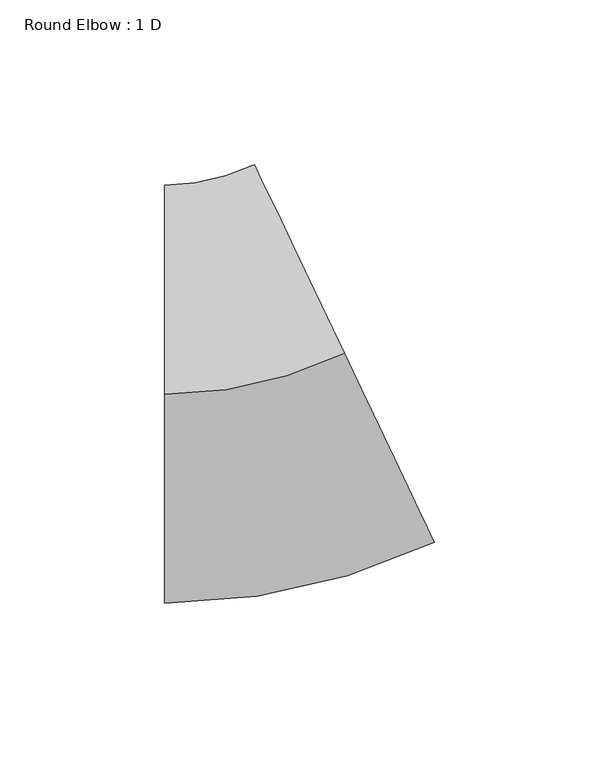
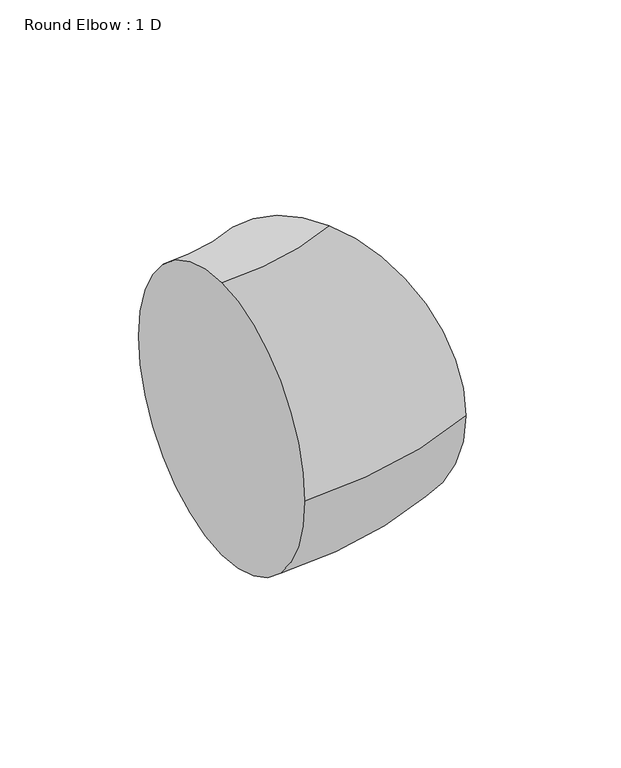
"""IFC4 building model written with IfcOpenShell, lengths in millimetres: duct fitting geometry, Round Elbow : 1 D."""

import ifcopenshell
import ifcopenshell.guid

model = None  # the IFC model being written
_history = None  # IfcOwnerHistory: only IFC2X3 demands one
_inside = {}  # id of a spatial element -> (the spatial element, [elements in it])
_under = {}  # id of a project, library or spatial element -> (it, [spatial elements below it])
_declared = {}  # id of a project -> (the project, [libraries it declares])
_typed = {}  # id of a type object -> (the type object, [elements of that type])
_made_of = {}  # id of a material, layer set ... -> (it, [elements and type objects made of it])


def new_model(schema):
    """Start an empty IFC model of exactly this schema.

    Asked for "IFC4X3", IfcOpenShell would pick the latest addendum, in which some entities
    have other attributes; the version numbers below select the first issue.
    IFC2X3 requires an IfcOwnerHistory on every rooted entity: one is made here for all.
    """
    global model, _history
    if schema == "IFC4X3":
        model = ifcopenshell.file(schema_version=(4, 3, 0, 0))
    else:
        model = ifcopenshell.file(schema=schema)
    _inside.clear()
    _under.clear()
    _declared.clear()
    _typed.clear()
    _made_of.clear()
    _history = None
    if model.schema == "IFC2X3":
        org = make("IfcOrganization", Name="unknown")
        user = make(
            "IfcPersonAndOrganization",
            ThePerson=make("IfcPerson", FamilyName="unknown"),
            TheOrganization=org,
        )
        app = make(
            "IfcApplication",
            ApplicationDeveloper=org,
            Version="unknown",
            ApplicationFullName="unknown",
            ApplicationIdentifier="unknown",
        )
        _history = make(
            "IfcOwnerHistory",
            OwningUser=user,
            OwningApplication=app,
            ChangeAction="ADDED",
            CreationDate=0,
        )
    return model


def make(cls, **values):
    """One entity of the class cls with the attributes given. An attribute that is None is left unset."""
    return model.create_entity(
        cls, **{name: value for name, value in values.items() if value is not None}
    )


def rooted(cls, **values):
    """An entity with a GlobalId (a new one), such as an element, a storey or a relation."""
    return make(cls, GlobalId=ifcopenshell.guid.new(), OwnerHistory=_history, **values)


def si_unit(unit_type, name, prefix=None):
    """IfcSIUnit, for example si_unit("LENGTHUNIT", "METRE", prefix="MILLI")."""
    return make("IfcSIUnit", UnitType=unit_type, Prefix=prefix, Name=name)


def assignment(units):
    """IfcUnitAssignment: the units of a project."""
    return None if units is None else make("IfcUnitAssignment", Units=units)


def point(xyz):
    """IfcCartesianPoint."""
    return None if xyz is None else make("IfcCartesianPoint", Coordinates=xyz)


def direction(xyz):
    """IfcDirection."""
    return None if xyz is None else make("IfcDirection", DirectionRatios=xyz)


def frame(location, z_axis=None, x_axis=None):
    """IfcAxis2Placement3D, a coordinate frame: its origin and axes. An axis left out is left unset."""
    return make(
        "IfcAxis2Placement3D",
        Location=point(location),
        Axis=direction(z_axis),
        RefDirection=direction(x_axis),
    )


def origin():
    """The frame at (0, 0, 0) with its axes left unset."""
    return frame((0.0, 0.0, 0.0))


def place(relative_to, where):
    """IfcLocalPlacement: puts the frame where relative to a parent placement (None: the world)."""
    return make(
        "IfcLocalPlacement", PlacementRelTo=relative_to, RelativePlacement=where
    )


def context(
    kind, dimensions, precision=None, world=None, true_north=None, identifier=None
):
    """IfcGeometricRepresentationContext, for example the 3D "Model" context."""
    return make(
        "IfcGeometricRepresentationContext",
        ContextIdentifier=identifier,
        ContextType=kind,
        CoordinateSpaceDimension=dimensions,
        Precision=precision,
        WorldCoordinateSystem=world,
        TrueNorth=true_north,
    )


def project(units=None, contexts=None):
    """IfcProject with its units and contexts."""
    return rooted(
        "IfcProject",
        Name="project",
        RepresentationContexts=contexts,
        UnitsInContext=assignment(units),
    )


def spatial(cls, under=None, at=None, **own):
    """A site, building, storey or space (cls), placed at a placement, below another one or the project."""
    s = rooted(cls, ObjectPlacement=at, **own)
    if under is not None:
        _under.setdefault(under.id(), (under, []))[1].append(s)
    return s


def circle_curve(where, radius):
    """IfcCircle in the frame where."""
    return make("IfcCircle", Position=where, Radius=radius)


def ellipse_curve(where, semi_axis1, semi_axis2):
    """IfcEllipse in the frame where."""
    return make(
        "IfcEllipse", Position=where, SemiAxis1=semi_axis1, SemiAxis2=semi_axis2
    )


def trimmed(basis, trim1, trim2, sense, master):
    """IfcTrimmedCurve: the piece of a basis curve between two trims."""
    return make(
        "IfcTrimmedCurve",
        BasisCurve=basis,
        Trim1=trim1,
        Trim2=trim2,
        SenseAgreement=sense,
        MasterRepresentation=master,
    )


def shape(context_of_items, identifier, shape_type, items):
    """IfcShapeRepresentation: the items that make up one representation, for example the "Body"."""
    return make(
        "IfcShapeRepresentation",
        ContextOfItems=context_of_items,
        RepresentationIdentifier=identifier,
        RepresentationType=shape_type,
        Items=items,
    )


def source(mapping_origin, context_of_items, identifier, shape_type, items):
    """IfcRepresentationMap: a shape defined once, which mapped items show again and again."""
    return make(
        "IfcRepresentationMap",
        MappingOrigin=mapping_origin,
        MappedRepresentation=shape(context_of_items, identifier, shape_type, items),
    )


def transform(
    local_origin,
    x_axis=None,
    y_axis=None,
    z_axis=None,
    scale=None,
    scale2=None,
    scale3=None,
    uniform=True,
):
    """IfcCartesianTransformationOperator3D, or its non-uniform kind. x_axis, y_axis, z_axis: its Axis1, 2, 3."""
    if uniform:
        return make(
            "IfcCartesianTransformationOperator3D",
            Axis1=direction(x_axis),
            Axis2=direction(y_axis),
            LocalOrigin=point(local_origin),
            Scale=scale,
            Axis3=direction(z_axis),
        )
    return make(
        "IfcCartesianTransformationOperator3DnonUniform",
        Axis1=direction(x_axis),
        Axis2=direction(y_axis),
        LocalOrigin=point(local_origin),
        Scale=scale,
        Axis3=direction(z_axis),
        Scale2=scale2,
        Scale3=scale3,
    )


def mapped(mapping_source, mapping_target):
    """IfcMappedItem: shows the shape of a source again, moved by a transform."""
    return make(
        "IfcMappedItem", MappingSource=mapping_source, MappingTarget=mapping_target
    )


def made_of(thing, what):
    """Note that an element or type object is made of a material, layer set ...; save() writes the relation."""
    if what is not None:
        _made_of.setdefault(what.id(), (what, []))[1].append(thing)
    return thing


def element(
    cls,
    number,
    at=None,
    inside=None,
    cuts=None,
    type_object=None,
    material=None,
    context=None,
    identifier="Body",
    shape_type=None,
    held_by="IfcProductDefinitionShape",
    body=None,
    shapes=None,
    **own,
):
    """One element of the class cls, such as IfcWall. Its Tag is "e" and its number.

    at: its placement. inside: the storey or other place that contains it. cuts: it is an
    opening in that element (IfcRelVoidsElement). A single representation is given by context,
    identifier, shape_type and body (its items); several are given by shapes. held_by: the class
    of the entity that holds the representations. save() writes the other relations.
    """
    e = rooted(cls, Tag="e%d" % number, ObjectPlacement=at, **own)
    if body is not None:
        shapes = [shape(context, identifier, shape_type, body)]
    if shapes is not None:
        e.Representation = make(held_by, Representations=shapes)
    if inside is not None:
        _inside.setdefault(inside.id(), (inside, []))[1].append(e)
    if cuts is not None:
        rooted(
            "IfcRelVoidsElement", RelatingBuildingElement=cuts, RelatedOpeningElement=e
        )
    if type_object is not None:
        _typed.setdefault(type_object.id(), (type_object, []))[1].append(e)
    return made_of(e, material)


def aggregate(whole, parts):
    """IfcRelAggregates: a whole, such as a stair, and the parts it consists of."""
    return rooted("IfcRelAggregates", RelatingObject=whole, RelatedObjects=parts)


def save(model, path):
    """Write the relations noted so far, then the file.

    IfcRelAggregates (storeys below a building ...), IfcRelContainedInSpatialStructure (elements
    in a storey), IfcRelDefinesByType, IfcRelAssociatesMaterial and IfcRelDeclares: one each for
    every whole, place, type object, material and project.
    """
    for whole, parts in _under.values():
        aggregate(whole, parts)
    for where, things in _inside.values():
        rooted(
            "IfcRelContainedInSpatialStructure",
            RelatedElements=things,
            RelatingStructure=where,
        )
    for kind, things in _typed.values():
        rooted("IfcRelDefinesByType", RelatedObjects=things, RelatingType=kind)
    for what, things in _made_of.values():
        rooted("IfcRelAssociatesMaterial", RelatedObjects=things, RelatingMaterial=what)
    for by, libraries in _declared.values():
        rooted("IfcRelDeclares", RelatingContext=by, RelatedDefinitions=libraries)
    model.write(path)


def plane_surface(at):
    """IfcPlane: the flat surface through the origin of the frame at, square to its z axis."""
    return make("IfcPlane", Position=at)


def revolved_surface(curve, axis_point, axis_direction):
    """IfcSurfaceOfRevolution: the curve turned about the line through axis_point along axis_direction."""
    return make(
        "IfcSurfaceOfRevolution",
        SweptCurve=make("IfcArbitraryOpenProfileDef", ProfileType="CURVE", Curve=curve),
        AxisPosition=make("IfcAxis1Placement", Location=point(axis_point), Axis=direction(axis_direction)),
    )


def advanced_brep(points, edges, surfaces, faces):
    """IfcAdvancedBrep: a solid bounded by faces that lie on surfaces and meet in shared edges.

    An edge is (start, end): straight between two places in points (the first is 0);
    or (start, end, curve); or (start, end, curve, False) where it runs against its curve.
    A face is (place in surfaces, loops), or (place, loops, False) where it looks against
    its surface's normal. A loop lists edges by number (the first is 1), with a minus sign
    where the edge is run from its end to its start. The first loop is the outer one.
    """
    corners = [point(p) for p in points]
    vertices = [make("IfcVertexPoint", VertexGeometry=c) for c in corners]
    made = []
    for start, end, *more in edges:
        made.append(
            make(
                "IfcEdgeCurve",
                EdgeStart=vertices[start],
                EdgeEnd=vertices[end],
                EdgeGeometry=more[0] if more else make("IfcPolyline", Points=[corners[start], corners[end]]),
                SameSense=more[1] if len(more) > 1 else True,
            )
        )
    hull = []
    for where, loops, *sense in faces:
        bounds = []
        for j, loop in enumerate(loops):
            ring = [make("IfcOrientedEdge", EdgeElement=made[abs(k) - 1], Orientation=k > 0) for k in loop]
            bounds.append(
                make(
                    "IfcFaceOuterBound" if j == 0 else "IfcFaceBound",
                    Bound=make("IfcEdgeLoop", EdgeList=ring),
                    Orientation=True,
                )
            )
        hull.append(make("IfcAdvancedFace", Bounds=bounds, FaceSurface=surfaces[where], SameSense=sense[0] if sense else True))
    return make("IfcAdvancedBrep", Outer=make("IfcClosedShell", CfsFaces=hull))


def round_elbow_1_d_d064e566(model_context):
    return source(origin(), model_context, "Body", "AdvancedBrep", [
        advanced_brep(
        [(-28.7211314, 0.0, 63.5), (-28.7211314, 63.5, 0.0), (-28.7211314, 0.0, -63.5), (-28.7211314, -63.5, 0.0), (25.9262401, 12.3585381, 63.5), (53.2499258, -44.9621929, 0.0), (25.9262401, 12.3585381, -63.5), (-1.3974457, 69.679269, 0.0)],
        [
            (0, 1, circle_curve(frame((-28.7211314, 0.0, 0.0), z_axis=(-1.0, 0.0, 0.0), x_axis=(0.0, 1.0, 0.0)), 63.5)),
            (1, 2, circle_curve(frame((-28.7211314, 0.0, 0.0), z_axis=(-1.0, 0.0, 0.0), x_axis=(0.0, 1.0, 0.0)), 63.5)),
            (2, 3, circle_curve(frame((-28.7211314, 0.0, 0.0), z_axis=(-1.0, 0.0, 0.0), x_axis=(0.0, 1.0, 0.0)), 63.5)),
            (3, 0, circle_curve(frame((-28.7211314, 0.0, 0.0), z_axis=(-1.0, 0.0, 0.0), x_axis=(0.0, 1.0, 0.0)), 63.5)),
            (4, 5, circle_curve(frame((25.9262401, 12.3585381, 0.0), z_axis=(0.9026886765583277, 0.43029426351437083, 0.0), x_axis=(-0.43029426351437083, 0.9026886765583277, 0.0)), 63.5)),
            (5, 6, circle_curve(frame((25.9262401, 12.3585381, 0.0), z_axis=(0.9026886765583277, 0.43029426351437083, 0.0), x_axis=(-0.43029426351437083, 0.9026886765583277, 0.0)), 63.5)),
            (6, 7, circle_curve(frame((25.9262401, 12.3585381, 0.0), z_axis=(0.9026886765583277, 0.43029426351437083, 0.0), x_axis=(-0.43029426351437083, 0.9026886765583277, 0.0)), 63.5)),
            (7, 4, circle_curve(frame((25.9262401, 12.3585381, 0.0), z_axis=(0.9026886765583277, 0.43029426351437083, 0.0), x_axis=(-0.43029426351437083, 0.9026886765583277, 0.0)), 63.5)),
            (7, 1, circle_curve(frame((-28.7211314, 127.0, 0.0), z_axis=(0.0, 0.0, -1.0), x_axis=(0.0, -1.0, 0.0)), 63.5)),
            (0, 4, circle_curve(frame((-28.7211314, 127.0, 63.5), z_axis=(0.0, 0.0, 1.0), x_axis=(0.0, -1.0, 0.0)), 127.0)),
            (6, 2, circle_curve(frame((-28.7211314, 127.0, -63.5), z_axis=(0.0, 0.0, -1.0), x_axis=(0.0, -1.0, 0.0)), 127.0)),
            (5, 3, circle_curve(frame((-28.7211314, 127.0, 0.0), z_axis=(0.0, 0.0, -1.0), x_axis=(0.0, -1.0, 0.0)), 190.5)),
        ],
        [
            plane_surface(frame((-28.7211314, 0.0, 0.0), z_axis=(-1.0, 0.0, 0.0), x_axis=(0.0, 0.0, 1.0))),
            plane_surface(frame((25.9262401, 12.3585381, 0.0), z_axis=(0.9026886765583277, 0.43029426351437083, 0.0), x_axis=(0.0, 0.0, 1.0))),
            revolved_surface(trimmed(ellipse_curve(frame((-28.7211314, 0.0, 0.0), z_axis=(-1.0, 0.0, 0.0), x_axis=(0.0, 1.0, 0.0)), 63.5, 63.5), [point((-28.7211314, 0.0, 63.5))], [point((-28.7211314, 63.5, 0.0))], True, "CARTESIAN"), (-28.7211314, 127.0, 0.0), (0.0, 0.0, 1.0)),
            revolved_surface(trimmed(ellipse_curve(frame((-28.7211314, 0.0, 0.0), z_axis=(-1.0, 0.0, 0.0), x_axis=(0.0, 1.0, 0.0)), 63.5, 63.5), [point((-28.7211314, 63.5, 0.0))], [point((-28.7211314, 0.0, -63.5))], True, "CARTESIAN"), (-28.7211314, 127.0, 0.0), (0.0, 0.0, 1.0)),
            revolved_surface(trimmed(ellipse_curve(frame((-28.7211314, 0.0, 0.0), z_axis=(-1.0, 0.0, 0.0), x_axis=(0.0, 1.0, 0.0)), 63.5, 63.5), [point((-28.7211314, 0.0, -63.5))], [point((-28.7211314, -63.5, 0.0))], True, "CARTESIAN"), (-28.7211314, 127.0, 0.0), (0.0, 0.0, 1.0)),
            revolved_surface(trimmed(ellipse_curve(frame((-28.7211314, 0.0, 0.0), z_axis=(-1.0, 0.0, 0.0), x_axis=(0.0, 1.0, 0.0)), 63.5, 63.5), [point((-28.7211314, -63.5, 0.0))], [point((-28.7211314, 0.0, 63.5))], True, "CARTESIAN"), (-28.7211314, 127.0, 0.0), (0.0, 0.0, 1.0)),
        ],
        [
            (0, [[1, 2, 3, 4]]),
            (1, [[5, 6, 7, 8]]),
            (2, [[9, -1, 10, -8]]),
            (3, [[11, -2, -9, -7]]),
            (4, [[12, -3, -11, -6]]),
            (5, [[-10, -4, -12, -5]]),
        ],
    ),
    ])


if __name__ == "__main__":
    model = new_model("IFC4")
    model_context = context("Model", 3, world=origin())
    ifc_project = project(units=[si_unit("LENGTHUNIT", "METRE", prefix="MILLI")], contexts=[model_context])
    site = spatial("IfcSite", under=ifc_project)
    building = spatial("IfcBuilding", under=site)
    placement = place(None, origin())
    round_elbow_1_d_shape = round_elbow_1_d_d064e566(model_context)
    element("IfcDuctFitting", 1, ObjectType="Round Elbow : 1 D", at=placement, inside=building, context=model_context, shape_type="MappedRepresentation", body=[
        mapped(round_elbow_1_d_shape, transform((0.0, 0.0, 0.0), x_axis=(1.0, 0.0, 0.0), y_axis=(0.0, 1.0, 0.0), z_axis=(0.0, 0.0, 1.0))),
    ])
    save(model, "model.ifc")
